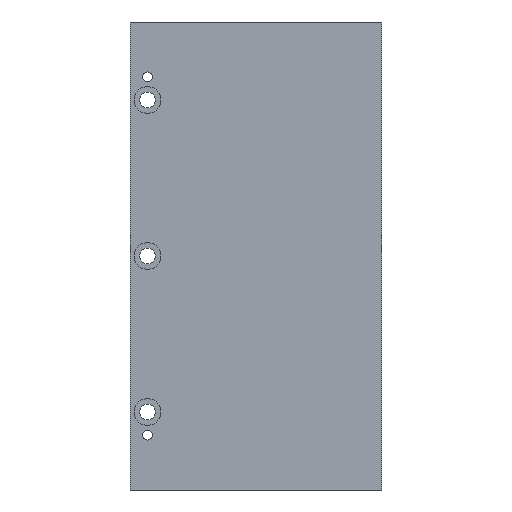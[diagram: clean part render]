
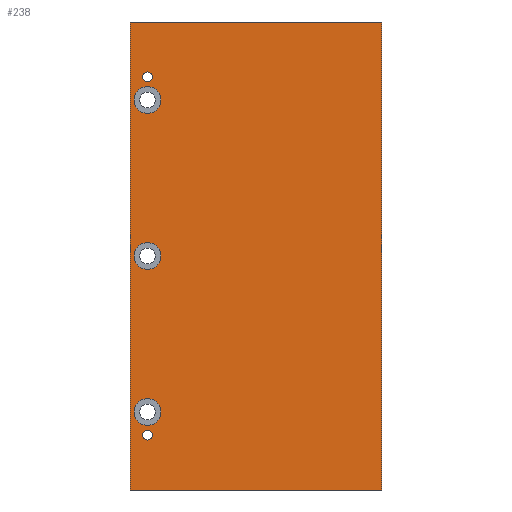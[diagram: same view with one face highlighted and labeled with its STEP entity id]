
A CAD part, left-side view. The second image highlights one B-rep face of the part: STEP entity #238.
In plain terms, the highlighted planar face has unit normal (-1, 0, 0).
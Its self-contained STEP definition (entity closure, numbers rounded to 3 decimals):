
#12 = VERTEX_POINT ( 'NONE', #308 ) ;
#45 = VERTEX_POINT ( 'NONE', #373 ) ;
#47 = EDGE_CURVE ( 'NONE', #12, #45, #432, .T. ) ;
#56 = EDGE_CURVE ( 'NONE', #69, #59, #408, .T. ) ;
#59 = VERTEX_POINT ( 'NONE', #403 ) ;
#66 = EDGE_CURVE ( 'NONE', #1377, #1376, #450, .T. ) ;
#69 = VERTEX_POINT ( 'NONE', #437 ) ;
#145 = EDGE_CURVE ( 'NONE', #1398, #254, #662, .T. ) ;
#146 = ORIENTED_EDGE ( 'NONE', *, *, #247, .T. ) ;
#147 = ORIENTED_EDGE ( 'NONE', *, *, #1395, .F. ) ;
#149 = ORIENTED_EDGE ( 'NONE', *, *, #145, .T. ) ;
#151 = ORIENTED_EDGE ( 'NONE', *, *, #152, .F. ) ;
#152 = EDGE_CURVE ( 'NONE', #1391, #159, #652, .T. ) ;
#153 = EDGE_CURVE ( 'NONE', #1435, #1370, #712, .T. ) ;
#155 = ORIENTED_EDGE ( 'NONE', *, *, #1426, .F. ) ;
#156 = EDGE_LOOP ( 'NONE', ( #253, #259 ) ) ;
#157 = EDGE_LOOP ( 'NONE', ( #260, #240 ) ) ;
#158 = EDGE_LOOP ( 'NONE', ( #250, #252 ) ) ;
#159 = VERTEX_POINT ( 'NONE', #707 ) ;
#238 = ADVANCED_FACE ( 'NONE', ( #777, #776, #775, #842, #841, #840 ), #839, .T. ) ;
#239 = EDGE_CURVE ( 'NONE', #1376, #1377, #834, .T. ) ;
#240 = ORIENTED_EDGE ( 'NONE', *, *, #66, .F. ) ;
#241 = EDGE_LOOP ( 'NONE', ( #151, #147, #149, #146 ) ) ;
#242 = EDGE_LOOP ( 'NONE', ( #255, #243 ) ) ;
#243 = ORIENTED_EDGE ( 'NONE', *, *, #56, .F. ) ;
#244 = EDGE_LOOP ( 'NONE', ( #245, #155 ) ) ;
#245 = ORIENTED_EDGE ( 'NONE', *, *, #153, .F. ) ;
#247 = EDGE_CURVE ( 'NONE', #254, #159, #825, .T. ) ;
#250 = ORIENTED_EDGE ( 'NONE', *, *, #251, .F. ) ;
#251 = EDGE_CURVE ( 'NONE', #45, #12, #817, .T. ) ;
#252 = ORIENTED_EDGE ( 'NONE', *, *, #47, .F. ) ;
#253 = ORIENTED_EDGE ( 'NONE', *, *, #258, .F. ) ;
#254 = VERTEX_POINT ( 'NONE', #812 ) ;
#255 = ORIENTED_EDGE ( 'NONE', *, *, #256, .F. ) ;
#256 = EDGE_CURVE ( 'NONE', #59, #69, #811, .T. ) ;
#258 = EDGE_CURVE ( 'NONE', #1450, #1425, #870, .T. ) ;
#259 = ORIENTED_EDGE ( 'NONE', *, *, #1449, .F. ) ;
#260 = ORIENTED_EDGE ( 'NONE', *, *, #239, .F. ) ;
#308 = CARTESIAN_POINT ( 'NONE',  ( 0., 96., 20.5 ) ) ;
#373 = CARTESIAN_POINT ( 'NONE',  ( 0., 96., 24.5 ) ) ;
#403 = CARTESIAN_POINT ( 'NONE',  ( 0., 96., 171.5 ) ) ;
#404 = DIRECTION ( 'NONE',  ( 0., 0., 1. ) ) ;
#405 = DIRECTION ( 'NONE',  ( -1., 0., 0. ) ) ;
#406 = CARTESIAN_POINT ( 'NONE',  ( 0., 96., 169.5 ) ) ;
#407 = AXIS2_PLACEMENT_3D ( 'NONE', #406, #405, #404 ) ;
#408 = CIRCLE ( 'NONE', #407, 2. ) ;
#428 = DIRECTION ( 'NONE',  ( 0., 0., 1. ) ) ;
#429 = DIRECTION ( 'NONE',  ( -1., 0., 0. ) ) ;
#430 = CARTESIAN_POINT ( 'NONE',  ( 0., 96., 22.5 ) ) ;
#431 = AXIS2_PLACEMENT_3D ( 'NONE', #430, #429, #428 ) ;
#432 = CIRCLE ( 'NONE', #431, 2. ) ;
#437 = CARTESIAN_POINT ( 'NONE',  ( 0., 96., 167.5 ) ) ;
#446 = DIRECTION ( 'NONE',  ( 0., 0., 1. ) ) ;
#447 = DIRECTION ( 'NONE',  ( -1., 0., 0. ) ) ;
#448 = CARTESIAN_POINT ( 'NONE',  ( 0., 96., 32. ) ) ;
#449 = AXIS2_PLACEMENT_3D ( 'NONE', #448, #447, #446 ) ;
#450 = CIRCLE ( 'NONE', #449, 5.5 ) ;
#650 = VECTOR ( 'NONE', #713, 1000. ) ;
#651 = CARTESIAN_POINT ( 'NONE',  ( 0., -33.306, 0. ) ) ;
#652 = LINE ( 'NONE', #651, #650 ) ;
#659 = DIRECTION ( 'NONE',  ( 0., 1., 0. ) ) ;
#660 = VECTOR ( 'NONE', #659, 1000. ) ;
#661 = CARTESIAN_POINT ( 'NONE',  ( 0., -33.306, 192. ) ) ;
#662 = LINE ( 'NONE', #661, #660 ) ;
#707 = CARTESIAN_POINT ( 'NONE',  ( 0., 103., 0. ) ) ;
#708 = DIRECTION ( 'NONE',  ( 0., 0., 1. ) ) ;
#709 = DIRECTION ( 'NONE',  ( -1., 0., 0. ) ) ;
#710 = CARTESIAN_POINT ( 'NONE',  ( 0., 96., 160. ) ) ;
#711 = AXIS2_PLACEMENT_3D ( 'NONE', #710, #709, #708 ) ;
#712 = CIRCLE ( 'NONE', #711, 5.5 ) ;
#713 = DIRECTION ( 'NONE',  ( 0., 1., 0. ) ) ;
#775 = FACE_BOUND ( 'NONE', #244, .T. ) ;
#776 = FACE_BOUND ( 'NONE', #242, .T. ) ;
#777 = FACE_BOUND ( 'NONE', #158, .T. ) ;
#811 = CIRCLE ( 'NONE', #874, 2. ) ;
#812 = CARTESIAN_POINT ( 'NONE',  ( 0., 103., 192. ) ) ;
#813 = DIRECTION ( 'NONE',  ( 0., 0., 1. ) ) ;
#814 = DIRECTION ( 'NONE',  ( -1., 0., 0. ) ) ;
#815 = CARTESIAN_POINT ( 'NONE',  ( 0., 96., 22.5 ) ) ;
#816 = AXIS2_PLACEMENT_3D ( 'NONE', #815, #814, #813 ) ;
#817 = CIRCLE ( 'NONE', #816, 2. ) ;
#822 = DIRECTION ( 'NONE',  ( 0., 0., -1. ) ) ;
#823 = VECTOR ( 'NONE', #822, 1000. ) ;
#824 = CARTESIAN_POINT ( 'NONE',  ( 0., 103., 192. ) ) ;
#825 = LINE ( 'NONE', #824, #823 ) ;
#830 = DIRECTION ( 'NONE',  ( 0., 0., 1. ) ) ;
#831 = DIRECTION ( 'NONE',  ( -1., 0., 0. ) ) ;
#832 = CARTESIAN_POINT ( 'NONE',  ( 0., 96., 32. ) ) ;
#833 = AXIS2_PLACEMENT_3D ( 'NONE', #832, #831, #830 ) ;
#834 = CIRCLE ( 'NONE', #833, 5.5 ) ;
#835 = DIRECTION ( 'NONE',  ( 0., 0., 1. ) ) ;
#836 = DIRECTION ( 'NONE',  ( -1., 0., 0. ) ) ;
#837 = CARTESIAN_POINT ( 'NONE',  ( 0., -33.306, 192. ) ) ;
#838 = AXIS2_PLACEMENT_3D ( 'NONE', #837, #836, #835 ) ;
#839 = PLANE ( 'NONE',  #838 ) ;
#840 = FACE_OUTER_BOUND ( 'NONE', #241, .T. ) ;
#841 = FACE_BOUND ( 'NONE', #157, .T. ) ;
#842 = FACE_BOUND ( 'NONE', #156, .T. ) ;
#866 = DIRECTION ( 'NONE',  ( 0., 0., 1. ) ) ;
#867 = DIRECTION ( 'NONE',  ( -1., 0., 0. ) ) ;
#868 = CARTESIAN_POINT ( 'NONE',  ( 0., 96., 96. ) ) ;
#869 = AXIS2_PLACEMENT_3D ( 'NONE', #868, #867, #866 ) ;
#870 = CIRCLE ( 'NONE', #869, 5.5 ) ;
#871 = DIRECTION ( 'NONE',  ( 0., 0., 1. ) ) ;
#872 = DIRECTION ( 'NONE',  ( -1., 0., 0. ) ) ;
#873 = CARTESIAN_POINT ( 'NONE',  ( 0., 96., 169.5 ) ) ;
#874 = AXIS2_PLACEMENT_3D ( 'NONE', #873, #872, #871 ) ;
#1076 = CARTESIAN_POINT ( 'NONE',  ( 0., 96., 26.5 ) ) ;
#1077 = CARTESIAN_POINT ( 'NONE',  ( 0., 96., 37.5 ) ) ;
#1093 = CARTESIAN_POINT ( 'NONE',  ( 0., 96., 154.5 ) ) ;
#1108 = CARTESIAN_POINT ( 'NONE',  ( 0., 0., 192. ) ) ;
#1113 = DIRECTION ( 'NONE',  ( 0., 0., -1. ) ) ;
#1114 = VECTOR ( 'NONE', #1113, 1000. ) ;
#1115 = CARTESIAN_POINT ( 'NONE',  ( 0., 0., 192. ) ) ;
#1116 = LINE ( 'NONE', #1115, #1114 ) ;
#1121 = CARTESIAN_POINT ( 'NONE',  ( 0., 0., 0. ) ) ;
#1181 = DIRECTION ( 'NONE',  ( 0., 0., 1. ) ) ;
#1182 = DIRECTION ( 'NONE',  ( -1., 0., 0. ) ) ;
#1183 = CARTESIAN_POINT ( 'NONE',  ( 0., 96., 160. ) ) ;
#1184 = AXIS2_PLACEMENT_3D ( 'NONE', #1183, #1182, #1181 ) ;
#1185 = CIRCLE ( 'NONE', #1184, 5.5 ) ;
#1186 = CARTESIAN_POINT ( 'NONE',  ( 0., 96., 90.5 ) ) ;
#1205 = CARTESIAN_POINT ( 'NONE',  ( 0., 96., 101.5 ) ) ;
#1206 = DIRECTION ( 'NONE',  ( 0., 0., 1. ) ) ;
#1207 = DIRECTION ( 'NONE',  ( -1., 0., 0. ) ) ;
#1208 = CARTESIAN_POINT ( 'NONE',  ( 0., 96., 96. ) ) ;
#1209 = AXIS2_PLACEMENT_3D ( 'NONE', #1208, #1207, #1206 ) ;
#1210 = CIRCLE ( 'NONE', #1209, 5.5 ) ;
#1228 = CARTESIAN_POINT ( 'NONE',  ( 0., 96., 165.5 ) ) ;
#1370 = VERTEX_POINT ( 'NONE', #1093 ) ;
#1376 = VERTEX_POINT ( 'NONE', #1077 ) ;
#1377 = VERTEX_POINT ( 'NONE', #1076 ) ;
#1391 = VERTEX_POINT ( 'NONE', #1121 ) ;
#1395 = EDGE_CURVE ( 'NONE', #1398, #1391, #1116, .T. ) ;
#1398 = VERTEX_POINT ( 'NONE', #1108 ) ;
#1425 = VERTEX_POINT ( 'NONE', #1186 ) ;
#1426 = EDGE_CURVE ( 'NONE', #1370, #1435, #1185, .T. ) ;
#1435 = VERTEX_POINT ( 'NONE', #1228 ) ;
#1449 = EDGE_CURVE ( 'NONE', #1425, #1450, #1210, .T. ) ;
#1450 = VERTEX_POINT ( 'NONE', #1205 ) ;
